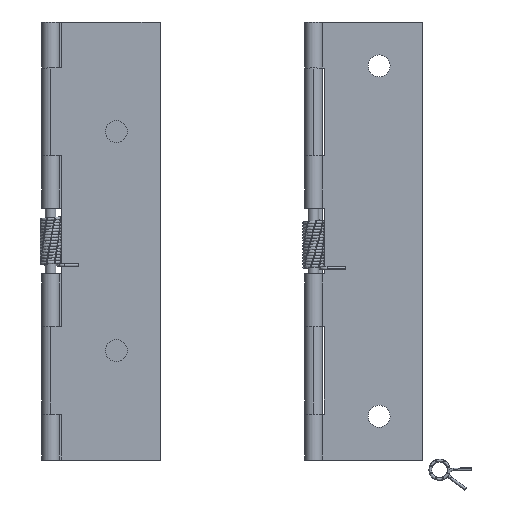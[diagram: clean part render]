
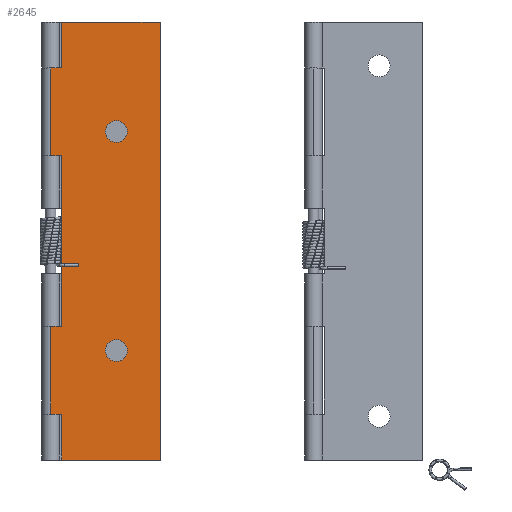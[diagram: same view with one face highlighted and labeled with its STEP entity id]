
A CAD part, top view. The second image highlights one B-rep face of the part: STEP entity #2645.
In plain terms, the highlighted planar face has unit normal (0, 0, 1) as drawn and (0, -1, 0) by its records, which use the part's own axes.
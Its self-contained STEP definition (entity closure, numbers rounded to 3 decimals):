
#1861=CARTESIAN_POINT('',(-5.193,-2.4,-2.5));
#1862=VERTEX_POINT('',#1861);
#1878=CARTESIAN_POINT('',(-5.193,-2.4,2.5));
#1879=VERTEX_POINT('',#1878);
#1886=CARTESIAN_POINT('',(-5.193,-2.4,0.0));
#1887=DIRECTION('',(0.0,1.0,0.0));
#1888=DIRECTION('',(0.0,0.0,-1.0));
#1889=AXIS2_PLACEMENT_3D('',#1886,#1887,#1888);
#1890=CIRCLE('',#1889,2.5);
#1891=EDGE_CURVE('',#1862,#1879,#1890,.T.);
#1903=CARTESIAN_POINT('',(-5.193,-2.4,47.5));
#1904=VERTEX_POINT('',#1903);
#1920=CARTESIAN_POINT('',(-5.193,-2.4,52.5));
#1921=VERTEX_POINT('',#1920);
#1928=CARTESIAN_POINT('',(-5.193,-2.4,50.0));
#1929=DIRECTION('',(0.0,1.0,0.0));
#1930=DIRECTION('',(0.0,0.0,-1.0));
#1931=AXIS2_PLACEMENT_3D('',#1928,#1929,#1930);
#1932=CIRCLE('',#1931,2.5);
#1933=EDGE_CURVE('',#1904,#1921,#1932,.T.);
#2102=CARTESIAN_POINT('',(7.307,-2.4,75.0));
#2103=VERTEX_POINT('',#2102);
#2112=CARTESIAN_POINT('',(7.307,-2.4,64.5));
#2113=VERTEX_POINT('',#2112);
#2114=CARTESIAN_POINT('',(7.307,-2.4,64.5));
#2115=DIRECTION('',(0.0,0.0,1.0));
#2116=VECTOR('',#2115,10.5);
#2117=LINE('',#2114,#2116);
#2118=EDGE_CURVE('',#2113,#2103,#2117,.T.);
#2165=CARTESIAN_POINT('',(9.807,-2.4,64.5));
#2166=VERTEX_POINT('',#2165);
#2167=CARTESIAN_POINT('',(9.807,-2.4,64.5));
#2168=DIRECTION('',(-1.0,0.0,0.0));
#2169=VECTOR('',#2168,2.5);
#2170=LINE('',#2167,#2169);
#2171=EDGE_CURVE('',#2166,#2113,#2170,.T.);
#2189=CARTESIAN_POINT('',(9.807,-2.4,-14.5));
#2190=VERTEX_POINT('',#2189);
#2198=CARTESIAN_POINT('',(7.307,-2.4,-14.5));
#2199=VERTEX_POINT('',#2198);
#2200=CARTESIAN_POINT('',(7.307,-2.4,-14.5));
#2201=DIRECTION('',(1.0,0.0,0.0));
#2202=VECTOR('',#2201,2.5);
#2203=LINE('',#2200,#2202);
#2204=EDGE_CURVE('',#2199,#2190,#2203,.T.);
#2247=CARTESIAN_POINT('',(7.307,-2.4,-25.0));
#2248=VERTEX_POINT('',#2247);
#2262=CARTESIAN_POINT('',(7.307,-2.4,-25.0));
#2263=DIRECTION('',(0.0,0.0,1.0));
#2264=VECTOR('',#2263,10.5);
#2265=LINE('',#2262,#2264);
#2266=EDGE_CURVE('',#2248,#2199,#2265,.T.);
#2276=CARTESIAN_POINT('',(9.807,-2.4,44.5));
#2277=VERTEX_POINT('',#2276);
#2285=CARTESIAN_POINT('',(7.307,-2.4,44.5));
#2286=VERTEX_POINT('',#2285);
#2287=CARTESIAN_POINT('',(7.307,-2.4,44.5));
#2288=DIRECTION('',(1.0,0.0,0.0));
#2289=VECTOR('',#2288,2.5);
#2290=LINE('',#2287,#2289);
#2291=EDGE_CURVE('',#2286,#2277,#2290,.T.);
#2341=CARTESIAN_POINT('',(7.307,-2.4,5.5));
#2342=VERTEX_POINT('',#2341);
#2343=CARTESIAN_POINT('',(7.307,-2.4,5.5));
#2344=DIRECTION('',(0.0,0.0,1.0));
#2345=VECTOR('',#2344,39.0);
#2346=LINE('',#2343,#2345);
#2347=EDGE_CURVE('',#2342,#2286,#2346,.T.);
#2386=CARTESIAN_POINT('',(9.807,-2.4,5.5));
#2387=VERTEX_POINT('',#2386);
#2388=CARTESIAN_POINT('',(9.807,-2.4,5.5));
#2389=DIRECTION('',(-1.0,0.0,0.0));
#2390=VECTOR('',#2389,2.5);
#2391=LINE('',#2388,#2390);
#2392=EDGE_CURVE('',#2387,#2342,#2391,.T.);
#2419=CARTESIAN_POINT('',(-15.193,-2.4,75.0));
#2420=VERTEX_POINT('',#2419);
#2427=CARTESIAN_POINT('',(7.307,-2.4,75.0));
#2428=DIRECTION('',(-1.0,0.0,0.0));
#2429=VECTOR('',#2428,22.5);
#2430=LINE('',#2427,#2429);
#2431=EDGE_CURVE('',#2103,#2420,#2430,.T.);
#2495=CARTESIAN_POINT('',(9.807,-2.4,-14.5));
#2496=DIRECTION('',(0.0,0.0,1.0));
#2497=VECTOR('',#2496,20.0);
#2498=LINE('',#2495,#2497);
#2499=EDGE_CURVE('',#2190,#2387,#2498,.T.);
#2535=CARTESIAN_POINT('',(-5.193,-2.4,50.0));
#2536=DIRECTION('',(0.0,1.0,0.0));
#2537=DIRECTION('',(0.0,0.0,-1.0));
#2538=AXIS2_PLACEMENT_3D('',#2535,#2536,#2537);
#2539=CIRCLE('',#2538,2.5);
#2540=EDGE_CURVE('',#1921,#1904,#2539,.T.);
#2553=CARTESIAN_POINT('',(-5.193,-2.4,0.0));
#2554=DIRECTION('',(0.0,1.0,0.0));
#2555=DIRECTION('',(0.0,0.0,-1.0));
#2556=AXIS2_PLACEMENT_3D('',#2553,#2554,#2555);
#2557=CIRCLE('',#2556,2.5);
#2558=EDGE_CURVE('',#1879,#1862,#2557,.T.);
#2596=CARTESIAN_POINT('',(9.807,-2.4,44.5));
#2597=DIRECTION('',(0.0,0.0,1.0));
#2598=VECTOR('',#2597,20.0);
#2599=LINE('',#2596,#2598);
#2600=EDGE_CURVE('',#2277,#2166,#2599,.T.);
#2606=CARTESIAN_POINT('',(10.5,-2.4,-25.0));
#2607=DIRECTION('',(0.0,-1.0,0.0));
#2608=DIRECTION('',(0.0,0.0,-1.0));
#2609=AXIS2_PLACEMENT_3D('',#2606,#2607,#2608);
#2610=PLANE('',#2609);
#2611=ORIENTED_EDGE('',*,*,#2118,.T.);
#2612=ORIENTED_EDGE('',*,*,#2431,.T.);
#2613=CARTESIAN_POINT('',(-15.193,-2.4,-25.0));
#2614=VERTEX_POINT('',#2613);
#2615=CARTESIAN_POINT('',(-15.193,-2.4,-25.0));
#2616=DIRECTION('',(0.0,0.0,1.0));
#2617=VECTOR('',#2616,100.0);
#2618=LINE('',#2615,#2617);
#2619=EDGE_CURVE('',#2614,#2420,#2618,.T.);
#2620=ORIENTED_EDGE('',*,*,#2619,.F.);
#2621=CARTESIAN_POINT('',(-15.193,-2.4,-25.0));
#2622=DIRECTION('',(1.0,0.0,0.0));
#2623=VECTOR('',#2622,22.5);
#2624=LINE('',#2621,#2623);
#2625=EDGE_CURVE('',#2614,#2248,#2624,.T.);
#2626=ORIENTED_EDGE('',*,*,#2625,.T.);
#2627=ORIENTED_EDGE('',*,*,#2266,.T.);
#2628=ORIENTED_EDGE('',*,*,#2204,.T.);
#2629=ORIENTED_EDGE('',*,*,#2499,.T.);
#2630=ORIENTED_EDGE('',*,*,#2392,.T.);
#2631=ORIENTED_EDGE('',*,*,#2347,.T.);
#2632=ORIENTED_EDGE('',*,*,#2291,.T.);
#2633=ORIENTED_EDGE('',*,*,#2600,.T.);
#2634=ORIENTED_EDGE('',*,*,#2171,.T.);
#2635=EDGE_LOOP('',(#2611,#2612,#2620,#2626,#2627,#2628,#2629,#2630,#2631,#2632,#2633,#2634));
#2636=FACE_OUTER_BOUND('',#2635,.T.);
#2637=ORIENTED_EDGE('',*,*,#1933,.T.);
#2638=ORIENTED_EDGE('',*,*,#2540,.T.);
#2639=EDGE_LOOP('',(#2637,#2638));
#2640=FACE_BOUND('',#2639,.T.);
#2641=ORIENTED_EDGE('',*,*,#1891,.T.);
#2642=ORIENTED_EDGE('',*,*,#2558,.T.);
#2643=EDGE_LOOP('',(#2641,#2642));
#2644=FACE_BOUND('',#2643,.T.);
#2645=ADVANCED_FACE('',(#2636,#2640,#2644),#2610,.T.);
